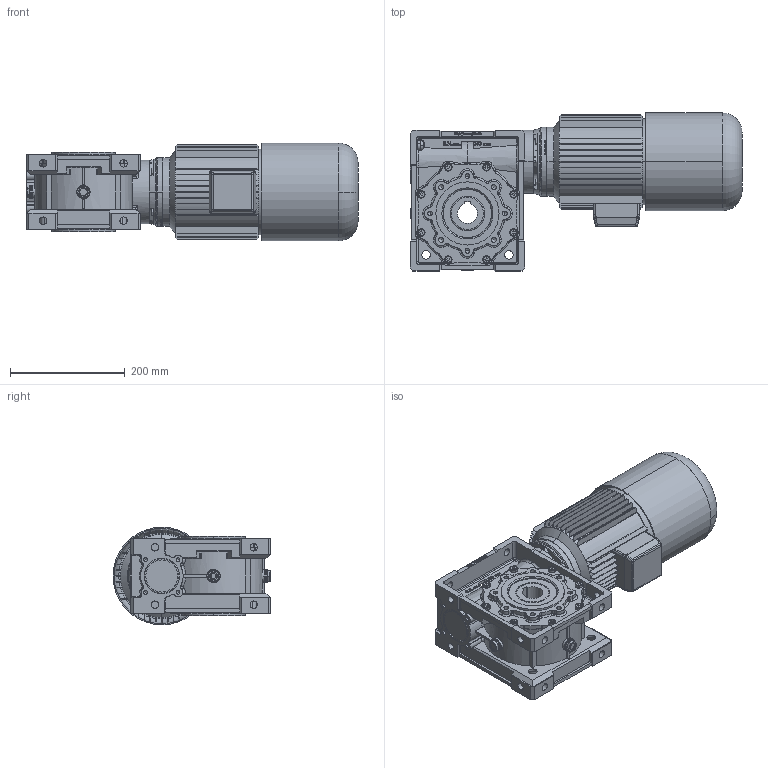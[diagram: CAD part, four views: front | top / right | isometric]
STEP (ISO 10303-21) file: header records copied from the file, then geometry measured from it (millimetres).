
FILE_DESCRIPTION((''),'2;1');
FILE_NAME('D:\_Assiemi MV\_File Sito\90\STP\MV90_B14-80BRAKE.stp','2005-07-27T15:23:40',('tech2'),(''),'Autodesk Inventor 9','Autodesk Inventor 9','');
FILE_SCHEMA(('AUTOMOTIVE_DESIGN { 1 0 10303 214 1 1 1 1 }'));
Length unit declared in the file: millimetre
Products named in the file (14): MV90_B14-80BRAKE; 4009001-A0; 4009004-A0; TCCE-8X20-ribassata; 4009008-A0; UNI-ISO 6194-1 (4) Tipo4 60 x  85 x  8; Capp-62-7; Guarnizione-tappo-3-8-gas; Tappo-3-8-gas-nero; Paraolio-40-68-7; motori B14 brake 80; 4011006-A0; UNI 5739  (Filetto regolare) M6 x 20
Assembly tree (28 placements, depth 3):
  MV90_B14-80BRAKE
    4009001-A0
    4009004-A0
    TCCE-8X20-ribassata  x8
    4009008-A0
    UNI-ISO 6194-1 (4) Tipo4 60 x  85 x  8  x2
    Capp-62-7
    Guarnizione-tappo-3-8-gas  x3
    Tappo-3-8-gas-nero  x3
    Paraolio-40-68-7
    motori B14 brake 80
    4011006-A0
      4011006-A0
      UNI 5739  (Filetto regolare) M6 x 20  x4
Bounding box: 578 x 275 x 170 mm (x, y, z)
Volume: 7448152.1 mm3; surface area: 1025997.6 mm2
Topology: 28 solids, 31 shells, 3738 faces, 9634 edges, 6085 vertices
Faces by surface type: plane 1522, cylinder 1098, bspline 901, cone 149, torus 64, sphere 4
Entity records: 122665 total; most frequent: CARTESIAN_POINT 42614, ORIENTED_EDGE 17404, DIRECTION 15642, EDGE_CURVE 8702, VERTEX_POINT 5583, AXIS2_PLACEMENT_3D 5411, VECTOR 4820, LINE 4820
